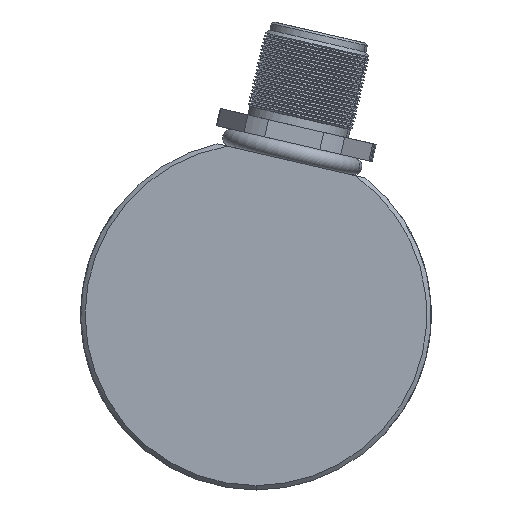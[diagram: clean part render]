
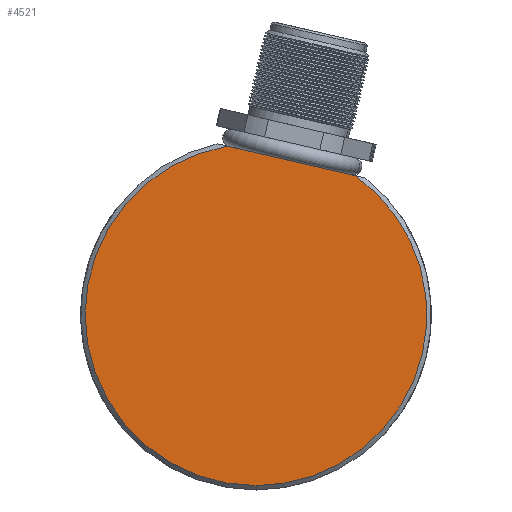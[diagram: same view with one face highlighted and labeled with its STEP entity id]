
A CAD part, left-side view. The second image highlights one B-rep face of the part: STEP entity #4521.
In plain terms, the highlighted planar face has unit normal (-1, 0, 0).
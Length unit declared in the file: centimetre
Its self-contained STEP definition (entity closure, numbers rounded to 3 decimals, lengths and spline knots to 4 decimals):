
#718=CIRCLE('',#4900,1.95);
#719=CIRCLE('',#4901,1.95);
#1019=VERTEX_POINT('',#7270);
#1020=VERTEX_POINT('',#7271);
#1021=VERTEX_POINT('',#7273);
#1403=VECTOR('',#5569,1.);
#1597=LINE('',#7269,#1403);
#1881=EDGE_CURVE('',#1019,#1020,#1597,.T.);
#1882=EDGE_CURVE('',#1021,#1020,#718,.T.);
#1883=EDGE_CURVE('',#1019,#1021,#719,.T.);
#2559=ORIENTED_EDGE('',*,*,#1881,.T.);
#2560=ORIENTED_EDGE('',*,*,#1882,.F.);
#2561=ORIENTED_EDGE('',*,*,#1883,.F.);
#3672=EDGE_LOOP('',(#2559,#2560,#2561));
#4100=FACE_BOUND('',#3672,.T.);
#4521=ADVANCED_FACE('',(#4100),#9239,.F.);
#4899=AXIS2_PLACEMENT_3D('',#7268,#5568,$);
#4900=AXIS2_PLACEMENT_3D('',#7272,#5570,#5571);
#4901=AXIS2_PLACEMENT_3D('',#7274,#5572,#5573);
#5568=DIRECTION('',(1.,0.,0.));
#5569=DIRECTION('',(0.,0.974,0.225));
#5570=DIRECTION('',(1.,0.,0.));
#5571=DIRECTION('',(0.,0.,1.95));
#5572=DIRECTION('',(1.,0.,0.));
#5573=DIRECTION('',(0.,0.,1.95));
#7268=CARTESIAN_POINT('',(-4.,0.,0.));
#7269=CARTESIAN_POINT('',(-4.,-1.1357,1.5852));
#7270=CARTESIAN_POINT('',(-4.,-1.1357,1.5852));
#7271=CARTESIAN_POINT('',(-4.,0.3259,1.9226));
#7272=CARTESIAN_POINT('',(-4.,0.,0.));
#7273=CARTESIAN_POINT('',(-4.,0.,-1.95));
#7274=CARTESIAN_POINT('',(-4.,0.,0.));
#9239=PLANE('',#4899);
